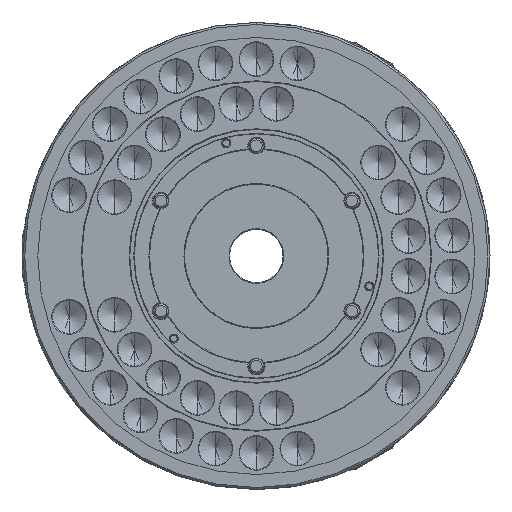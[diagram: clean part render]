
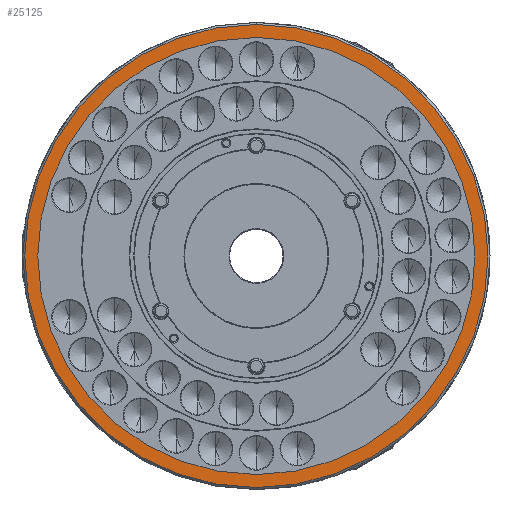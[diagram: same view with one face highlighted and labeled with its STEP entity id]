
A CAD part, left-side view. The second image highlights one B-rep face of the part: STEP entity #25125.
In plain terms, the highlighted planar face has unit normal (-1, 0, 0).
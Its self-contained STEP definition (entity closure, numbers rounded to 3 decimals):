
#11183 = AXIS2_PLACEMENT_3D ( 'NONE', #254181, #99846, #119310 ) ;
#11578 = CARTESIAN_POINT ( 'NONE',  ( -149., 0., 0. ) ) ;
#25125 = ADVANCED_FACE ( 'NONE', ( #238556, #216530 ), #234713, .T. ) ;
#26965 = DIRECTION ( 'NONE',  ( 1., 0., 0. ) ) ;
#28251 = CARTESIAN_POINT ( 'NONE',  ( -149., 0., 0. ) ) ;
#30996 = DIRECTION ( 'NONE',  ( 1., 0., 0. ) ) ;
#31918 = CARTESIAN_POINT ( 'NONE',  ( -149., 0., 0. ) ) ;
#34972 = EDGE_LOOP ( 'NONE', ( #54862, #144044 ) ) ;
#53612 = CIRCLE ( 'NONE', #256619, 347. ) ;
#54862 = ORIENTED_EDGE ( 'NONE', *, *, #228486, .F. ) ;
#65897 = DIRECTION ( 'NONE',  ( 0., 0., -1. ) ) ;
#68363 = ORIENTED_EDGE ( 'NONE', *, *, #245638, .T. ) ;
#71330 = CARTESIAN_POINT ( 'NONE',  ( -149., 0., 327.5 ) ) ;
#78941 = DIRECTION ( 'NONE',  ( 0., 0., -1. ) ) ;
#83622 = EDGE_CURVE ( 'NONE', #210992, #131106, #138113, .T. ) ;
#83736 = ORIENTED_EDGE ( 'NONE', *, *, #83622, .T. ) ;
#99846 = DIRECTION ( 'NONE',  ( -1., 0., 0. ) ) ;
#100896 = CARTESIAN_POINT ( 'NONE',  ( -149., 0., 0. ) ) ;
#108647 = AXIS2_PLACEMENT_3D ( 'NONE', #31918, #228916, #110995 ) ;
#110459 = AXIS2_PLACEMENT_3D ( 'NONE', #28251, #26965, #65897 ) ;
#110995 = DIRECTION ( 'NONE',  ( 0., 0., -1. ) ) ;
#111364 = DIRECTION ( 'NONE',  ( 0., 0., -1. ) ) ;
#119310 = DIRECTION ( 'NONE',  ( 0., 0., 1. ) ) ;
#121022 = CIRCLE ( 'NONE', #108647, 327.5 ) ;
#131106 = VERTEX_POINT ( 'NONE', #149617 ) ;
#132170 = CARTESIAN_POINT ( 'NONE',  ( -149., 0., 347. ) ) ;
#133156 = VERTEX_POINT ( 'NONE', #132170 ) ;
#136282 = EDGE_CURVE ( 'NONE', #133156, #208684, #53612, .T. ) ;
#138113 = CIRCLE ( 'NONE', #183601, 327.5 ) ;
#139323 = CIRCLE ( 'NONE', #110459, 347. ) ;
#144044 = ORIENTED_EDGE ( 'NONE', *, *, #136282, .F. ) ;
#149617 = CARTESIAN_POINT ( 'NONE',  ( -149., 0., -327.5 ) ) ;
#183601 = AXIS2_PLACEMENT_3D ( 'NONE', #100896, #237079, #78941 ) ;
#208684 = VERTEX_POINT ( 'NONE', #227768 ) ;
#210992 = VERTEX_POINT ( 'NONE', #71330 ) ;
#216530 = FACE_OUTER_BOUND ( 'NONE', #34972, .T. ) ;
#227768 = CARTESIAN_POINT ( 'NONE',  ( -149., 0., -347. ) ) ;
#228486 = EDGE_CURVE ( 'NONE', #208684, #133156, #139323, .T. ) ;
#228916 = DIRECTION ( 'NONE',  ( 1., 0., 0. ) ) ;
#234713 = PLANE ( 'NONE',  #11183 ) ;
#237079 = DIRECTION ( 'NONE',  ( 1., 0., 0. ) ) ;
#238556 = FACE_BOUND ( 'NONE', #255505, .T. ) ;
#245638 = EDGE_CURVE ( 'NONE', #131106, #210992, #121022, .T. ) ;
#254181 = CARTESIAN_POINT ( 'NONE',  ( -149., 347., 0. ) ) ;
#255505 = EDGE_LOOP ( 'NONE', ( #68363, #83736 ) ) ;
#256619 = AXIS2_PLACEMENT_3D ( 'NONE', #11578, #30996, #111364 ) ;
